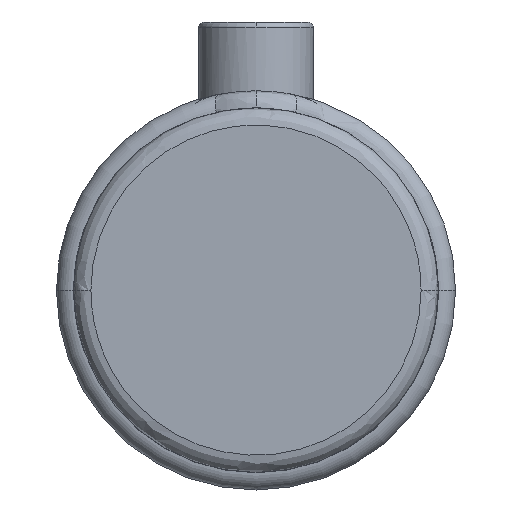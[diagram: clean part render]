
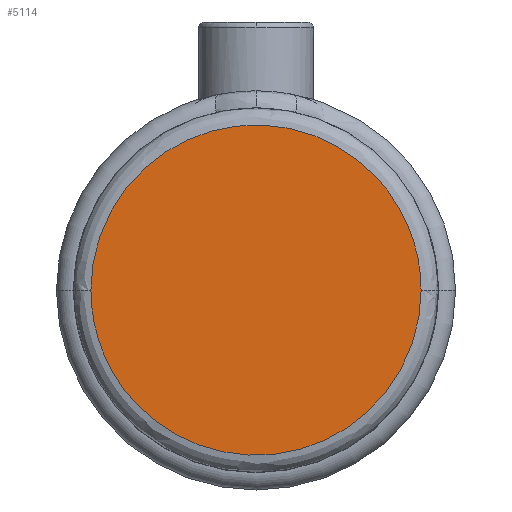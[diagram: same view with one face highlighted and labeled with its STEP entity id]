
A CAD part, top view. The second image highlights one B-rep face of the part: STEP entity #5114.
In plain terms, the highlighted planar face has unit normal (0, 0, 1).
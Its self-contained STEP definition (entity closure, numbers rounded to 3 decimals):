
#328 = CARTESIAN_POINT ( 'NONE',  ( -28.75, -57.5, 38. ) ) ;
#398 = CARTESIAN_POINT ( 'NONE',  ( 28.75, 57.5, 38. ) ) ;
#523 = CARTESIAN_POINT ( 'NONE',  ( -28.75, 0., 38. ) ) ;
#729 = AXIS2_PLACEMENT_3D ( 'NONE', #2992, #5190, #818 ) ;
#818 = DIRECTION ( 'NONE',  ( 0., -1., 0. ) ) ;
#2216 = VERTEX_POINT ( 'NONE', #2463 ) ;
#2392 = ORIENTED_EDGE ( 'NONE', *, *, #4696, .F. ) ;
#2463 = CARTESIAN_POINT ( 'NONE',  ( 28.75, 0., 38. ) ) ;
#2628 =( BOUNDED_CURVE ( )  B_SPLINE_CURVE ( 3, ( #6904, #9087, #398, #5498 ),
 .UNSPECIFIED., .F., .T. ) 
 B_SPLINE_CURVE_WITH_KNOTS ( ( 4, 4 ),
 ( 0.75, 1.25 ),
 .UNSPECIFIED. ) 
 CURVE ( )  GEOMETRIC_REPRESENTATION_ITEM ( )  RATIONAL_B_SPLINE_CURVE ( ( 1., 0.333, 0.333, 1. ) ) 
 REPRESENTATION_ITEM ( '' )  );
#2992 = CARTESIAN_POINT ( 'NONE',  ( 0., 15.875, 38. ) ) ;
#3911 = CARTESIAN_POINT ( 'NONE',  ( 28.75, -57.5, 38. ) ) ;
#4049 = FACE_OUTER_BOUND ( 'NONE', #5890, .T. ) ;
#4696 = EDGE_CURVE ( 'NONE', #6017, #2216, #2628, .T. ) ;
#5114 = ADVANCED_FACE ( 'NONE', ( #4049 ), #7324, .T. ) ;
#5190 = DIRECTION ( 'NONE',  ( 0., 0., 1. ) ) ;
#5430 = CARTESIAN_POINT ( 'NONE',  ( -28.75, 0., 38. ) ) ;
#5498 = CARTESIAN_POINT ( 'NONE',  ( 28.75, 0., 38. ) ) ;
#5883 =( BOUNDED_CURVE ( )  B_SPLINE_CURVE ( 3, ( #8963, #3911, #328, #5430 ),
 .UNSPECIFIED., .F., .F. ) 
 B_SPLINE_CURVE_WITH_KNOTS ( ( 4, 4 ),
 ( 0.25, 0.75 ),
 .UNSPECIFIED. ) 
 CURVE ( )  GEOMETRIC_REPRESENTATION_ITEM ( )  RATIONAL_B_SPLINE_CURVE ( ( 1., 0.333, 0.333, 1. ) ) 
 REPRESENTATION_ITEM ( '' )  );
#5890 = EDGE_LOOP ( 'NONE', ( #6038, #2392 ) ) ;
#6017 = VERTEX_POINT ( 'NONE', #523 ) ;
#6038 = ORIENTED_EDGE ( 'NONE', *, *, #6551, .F. ) ;
#6551 = EDGE_CURVE ( 'NONE', #2216, #6017, #5883, .T. ) ;
#6904 = CARTESIAN_POINT ( 'NONE',  ( -28.75, 0., 38. ) ) ;
#7324 = PLANE ( 'NONE',  #729 ) ;
#8963 = CARTESIAN_POINT ( 'NONE',  ( 28.75, 0., 38. ) ) ;
#9087 = CARTESIAN_POINT ( 'NONE',  ( -28.75, 57.5, 38. ) ) ;
